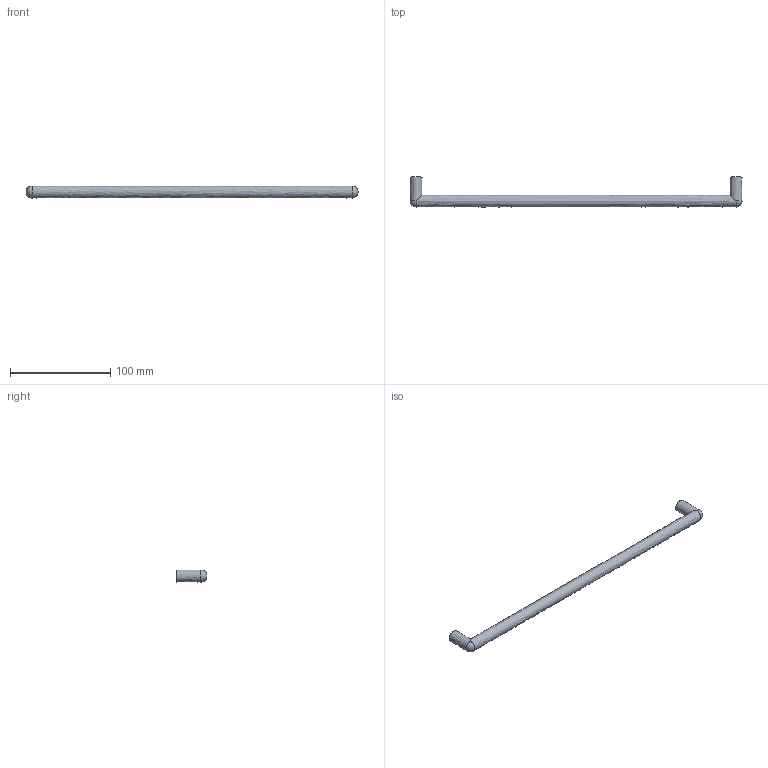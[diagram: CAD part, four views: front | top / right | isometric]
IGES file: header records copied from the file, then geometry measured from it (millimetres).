
Start section: Data from Parasolid IGES Translator 15.0.47, Copyright(c) 2006 Siemens P LM Software. All Rights Reserved.
Global section: file name:  9070998.igs; native system:  By UGS Corp.; preprocessor: XPlus GENERIC/IGES 3.0; author: Noname; organization: Noname; date: 20140122.181537; units: millimetre
Bounding box: 332 x 30 x 12 mm (x, y, z)
Surface area: 14351.8 mm2 (no closed solid volume)
Topology: 0 solids, 0 shells, 11 faces, 38 edges, 30 vertices
Faces by surface type: revolution 7, extrusion 4
